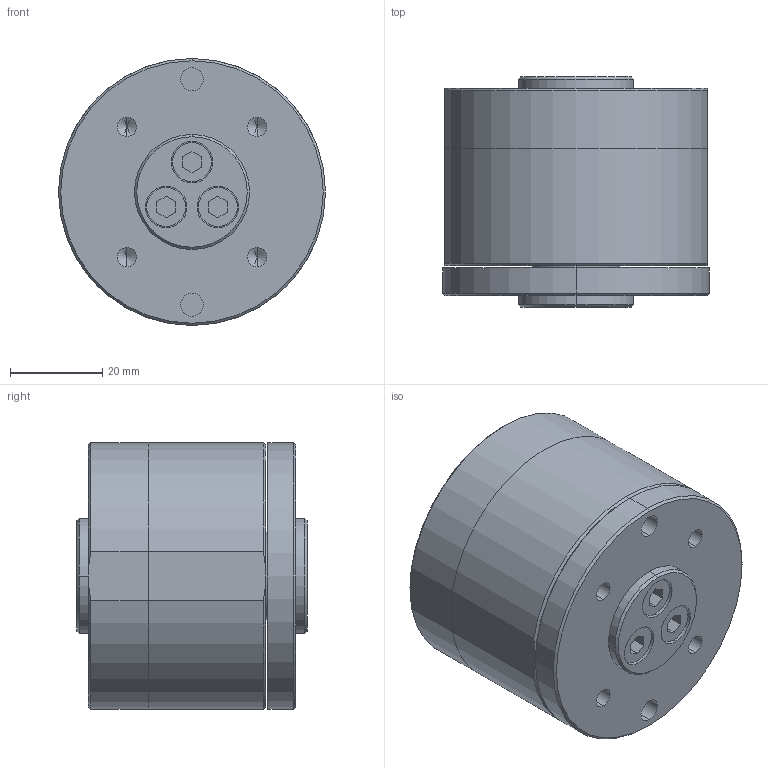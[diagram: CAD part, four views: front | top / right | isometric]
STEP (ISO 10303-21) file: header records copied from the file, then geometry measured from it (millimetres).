
FILE_DESCRIPTION (( 'STEP AP203' ), '1' );
FILE_NAME ('FCD-10RC-2TA.STEP', '2020-05-08T01:47:29', ( '' ), ( '' ), 'SwSTEP 2.0', 'SolidWorks 2013', '' );
FILE_SCHEMA (( 'CONFIG_CONTROL_DESIGN' ));
Length unit declared in the file: millimetre
Products named in the file (1): FCD-10RC-2TA
Bounding box: 58 x 50 x 58 mm (x, y, z)
Volume: 117360.4 mm3; surface area: 26848.7 mm2
Topology: 2 solids, 2 shells, 191 faces, 454 edges, 281 vertices
Faces by surface type: cylinder 75, plane 75, cone 41
Entity records: 5523 total; most frequent: DIRECTION 986, CARTESIAN_POINT 953, ORIENTED_EDGE 864, EDGE_CURVE 432, AXIS2_PLACEMENT_3D 370, VERTEX_POINT 281, EDGE_LOOP 247, VECTOR 246
